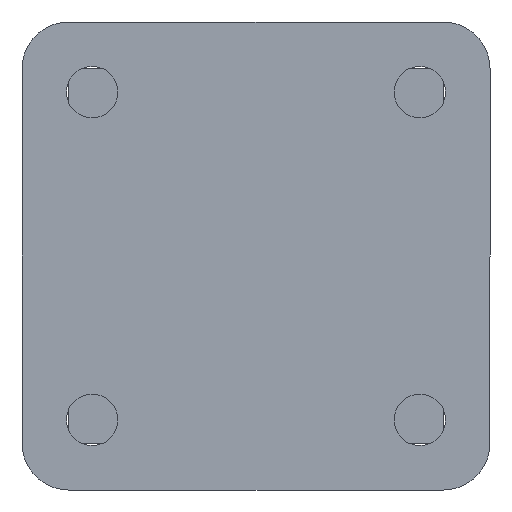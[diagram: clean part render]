
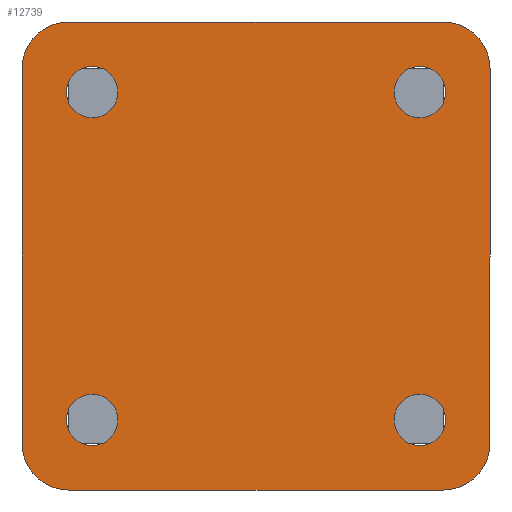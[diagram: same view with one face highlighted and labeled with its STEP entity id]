
A CAD part, front view. The second image highlights one B-rep face of the part: STEP entity #12739.
In plain terms, the highlighted planar face has unit normal (0, -1, 0).
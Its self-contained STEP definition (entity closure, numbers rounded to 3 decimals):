
#105 = EDGE_CURVE ( 'NONE', #10604, #2913, #3295, .T. ) ;
#191 = CARTESIAN_POINT ( 'NONE',  ( -50., 0., 50. ) ) ;
#304 = ORIENTED_EDGE ( 'NONE', *, *, #8594, .T. ) ;
#726 = CIRCLE ( 'NONE', #6324, 5.5 ) ;
#745 = ORIENTED_EDGE ( 'NONE', *, *, #5411, .F. ) ;
#825 = VECTOR ( 'NONE', #15408, 1000. ) ;
#870 = VERTEX_POINT ( 'NONE', #3599 ) ;
#997 = DIRECTION ( 'NONE',  ( 0., -1., 0. ) ) ;
#1043 = CIRCLE ( 'NONE', #16382, 5.5 ) ;
#1075 = DIRECTION ( 'NONE',  ( 0., 0., 1. ) ) ;
#1088 = EDGE_LOOP ( 'NONE', ( #1555, #14100, #4468, #15291, #745, #1935, #4440, #6142 ) ) ;
#1410 = DIRECTION ( 'NONE',  ( 0., 1., 0. ) ) ;
#1555 = ORIENTED_EDGE ( 'NONE', *, *, #9664, .F. ) ;
#1669 = CARTESIAN_POINT ( 'NONE',  ( -50., 0., -50. ) ) ;
#1676 = CARTESIAN_POINT ( 'NONE',  ( -50., 0., 40. ) ) ;
#1891 = CIRCLE ( 'NONE', #3085, 5.5 ) ;
#1935 = ORIENTED_EDGE ( 'NONE', *, *, #3157, .T. ) ;
#1990 = DIRECTION ( 'NONE',  ( 0., 1., 0. ) ) ;
#2046 = EDGE_LOOP ( 'NONE', ( #7841, #6560 ) ) ;
#2272 = CARTESIAN_POINT ( 'NONE',  ( -35., 0., 35. ) ) ;
#2388 = VERTEX_POINT ( 'NONE', #9661 ) ;
#2432 = AXIS2_PLACEMENT_3D ( 'NONE', #7020, #14572, #13130 ) ;
#2859 = CARTESIAN_POINT ( 'NONE',  ( 40., 0., -40. ) ) ;
#2876 = FACE_OUTER_BOUND ( 'NONE', #1088, .T. ) ;
#2913 = VERTEX_POINT ( 'NONE', #7886 ) ;
#2948 = EDGE_CURVE ( 'NONE', #9920, #10938, #14259, .T. ) ;
#3085 = AXIS2_PLACEMENT_3D ( 'NONE', #3890, #5002, #5110 ) ;
#3087 = VERTEX_POINT ( 'NONE', #14641 ) ;
#3144 = CARTESIAN_POINT ( 'NONE',  ( -35., 0., -35. ) ) ;
#3157 = EDGE_CURVE ( 'NONE', #3631, #3087, #15236, .T. ) ;
#3295 = CIRCLE ( 'NONE', #2432, 5.5 ) ;
#3316 = AXIS2_PLACEMENT_3D ( 'NONE', #5135, #3868, #13972 ) ;
#3557 = EDGE_CURVE ( 'NONE', #4820, #15381, #15926, .T. ) ;
#3585 = DIRECTION ( 'NONE',  ( 0., 0., -1. ) ) ;
#3599 = CARTESIAN_POINT ( 'NONE',  ( -50., 0., -40. ) ) ;
#3631 = VERTEX_POINT ( 'NONE', #11846 ) ;
#3787 = CIRCLE ( 'NONE', #13510, 5.5 ) ;
#3799 = ORIENTED_EDGE ( 'NONE', *, *, #2948, .T. ) ;
#3860 = AXIS2_PLACEMENT_3D ( 'NONE', #2859, #10379, #12899 ) ;
#3868 = DIRECTION ( 'NONE',  ( 0., 1., 0. ) ) ;
#3890 = CARTESIAN_POINT ( 'NONE',  ( 35., 0., -35. ) ) ;
#3939 = AXIS2_PLACEMENT_3D ( 'NONE', #10516, #16246, #1075 ) ;
#4243 = EDGE_CURVE ( 'NONE', #4820, #3087, #11965, .T. ) ;
#4313 = ORIENTED_EDGE ( 'NONE', *, *, #12940, .T. ) ;
#4420 = CARTESIAN_POINT ( 'NONE',  ( 35., 0., -40.5 ) ) ;
#4428 = DIRECTION ( 'NONE',  ( 0., 0., 1. ) ) ;
#4440 = ORIENTED_EDGE ( 'NONE', *, *, #4243, .F. ) ;
#4468 = ORIENTED_EDGE ( 'NONE', *, *, #15791, .F. ) ;
#4550 = EDGE_CURVE ( 'NONE', #9291, #11427, #1043, .T. ) ;
#4681 = EDGE_LOOP ( 'NONE', ( #9231, #4313 ) ) ;
#4785 = AXIS2_PLACEMENT_3D ( 'NONE', #4803, #997, #7355 ) ;
#4803 = CARTESIAN_POINT ( 'NONE',  ( 40., 0., 40. ) ) ;
#4820 = VERTEX_POINT ( 'NONE', #16355 ) ;
#5002 = DIRECTION ( 'NONE',  ( 0., 1., 0. ) ) ;
#5110 = DIRECTION ( 'NONE',  ( 0., 0., 1. ) ) ;
#5135 = CARTESIAN_POINT ( 'NONE',  ( 35., 0., 35. ) ) ;
#5188 = VERTEX_POINT ( 'NONE', #6893 ) ;
#5261 = EDGE_CURVE ( 'NONE', #5188, #2388, #3787, .T. ) ;
#5330 = AXIS2_PLACEMENT_3D ( 'NONE', #6693, #9305, #14422 ) ;
#5331 = DIRECTION ( 'NONE',  ( 1., 0., 0. ) ) ;
#5411 = EDGE_CURVE ( 'NONE', #3631, #11256, #7170, .T. ) ;
#6020 = DIRECTION ( 'NONE',  ( 0., 1., 0. ) ) ;
#6142 = ORIENTED_EDGE ( 'NONE', *, *, #3557, .T. ) ;
#6324 = AXIS2_PLACEMENT_3D ( 'NONE', #3144, #1990, #4428 ) ;
#6405 = LINE ( 'NONE', #7240, #10003 ) ;
#6429 = DIRECTION ( 'NONE',  ( 0., 0., 1. ) ) ;
#6464 = EDGE_LOOP ( 'NONE', ( #3799, #304 ) ) ;
#6560 = ORIENTED_EDGE ( 'NONE', *, *, #5261, .T. ) ;
#6615 = CARTESIAN_POINT ( 'NONE',  ( -35., 0., -29.5 ) ) ;
#6693 = CARTESIAN_POINT ( 'NONE',  ( -40., 0., 40. ) ) ;
#6780 = CIRCLE ( 'NONE', #9605, 5.5 ) ;
#6893 = CARTESIAN_POINT ( 'NONE',  ( 35., 0., 29.5 ) ) ;
#7020 = CARTESIAN_POINT ( 'NONE',  ( -35., 0., -35. ) ) ;
#7168 = DIRECTION ( 'NONE',  ( 0., 0., 1. ) ) ;
#7170 = LINE ( 'NONE', #13649, #12719 ) ;
#7240 = CARTESIAN_POINT ( 'NONE',  ( -50., 0., -50. ) ) ;
#7311 = DIRECTION ( 'NONE',  ( 0., 0., 1. ) ) ;
#7355 = DIRECTION ( 'NONE',  ( 0., 0., 1. ) ) ;
#7425 = CARTESIAN_POINT ( 'NONE',  ( 35., 0., -29.5 ) ) ;
#7546 = EDGE_CURVE ( 'NONE', #2388, #5188, #15944, .T. ) ;
#7841 = ORIENTED_EDGE ( 'NONE', *, *, #7546, .T. ) ;
#7886 = CARTESIAN_POINT ( 'NONE',  ( -35., 0., -40.5 ) ) ;
#8131 = CARTESIAN_POINT ( 'NONE',  ( -35., 0., 40.5 ) ) ;
#8246 = ORIENTED_EDGE ( 'NONE', *, *, #4550, .T. ) ;
#8594 = EDGE_CURVE ( 'NONE', #10938, #9920, #6780, .T. ) ;
#8666 = VERTEX_POINT ( 'NONE', #10156 ) ;
#8680 = DIRECTION ( 'NONE',  ( 0., -1., 0. ) ) ;
#8938 = ORIENTED_EDGE ( 'NONE', *, *, #14346, .T. ) ;
#9231 = ORIENTED_EDGE ( 'NONE', *, *, #105, .T. ) ;
#9291 = VERTEX_POINT ( 'NONE', #4420 ) ;
#9305 = DIRECTION ( 'NONE',  ( 0., -1., 0. ) ) ;
#9535 = EDGE_CURVE ( 'NONE', #8666, #11256, #10564, .T. ) ;
#9605 = AXIS2_PLACEMENT_3D ( 'NONE', #2272, #6020, #7311 ) ;
#9661 = CARTESIAN_POINT ( 'NONE',  ( 35., 0., 40.5 ) ) ;
#9664 = EDGE_CURVE ( 'NONE', #870, #15381, #16287, .T. ) ;
#9759 = DIRECTION ( 'NONE',  ( 0., 1., 0. ) ) ;
#9812 = CARTESIAN_POINT ( 'NONE',  ( -40., 0., -50. ) ) ;
#9920 = VERTEX_POINT ( 'NONE', #8131 ) ;
#9993 = AXIS2_PLACEMENT_3D ( 'NONE', #12376, #8680, #7168 ) ;
#10003 = VECTOR ( 'NONE', #10970, 1000. ) ;
#10156 = CARTESIAN_POINT ( 'NONE',  ( 40., 0., -50. ) ) ;
#10379 = DIRECTION ( 'NONE',  ( 0., -1., 0. ) ) ;
#10516 = CARTESIAN_POINT ( 'NONE',  ( -35., 0., 35. ) ) ;
#10564 = CIRCLE ( 'NONE', #3860, 10. ) ;
#10604 = VERTEX_POINT ( 'NONE', #6615 ) ;
#10790 = CARTESIAN_POINT ( 'NONE',  ( -35., 0., 29.5 ) ) ;
#10874 = EDGE_LOOP ( 'NONE', ( #8938, #8246 ) ) ;
#10934 = CARTESIAN_POINT ( 'NONE',  ( 35., 0., -35. ) ) ;
#10938 = VERTEX_POINT ( 'NONE', #10790 ) ;
#10970 = DIRECTION ( 'NONE',  ( -1., 0., 0. ) ) ;
#10987 = DIRECTION ( 'NONE',  ( 0., 0., 1. ) ) ;
#11017 = AXIS2_PLACEMENT_3D ( 'NONE', #191, #1410, #6429 ) ;
#11256 = VERTEX_POINT ( 'NONE', #14651 ) ;
#11427 = VERTEX_POINT ( 'NONE', #7425 ) ;
#11846 = CARTESIAN_POINT ( 'NONE',  ( 50., 0., 40. ) ) ;
#11965 = LINE ( 'NONE', #14391, #14552 ) ;
#12376 = CARTESIAN_POINT ( 'NONE',  ( -40., 0., -40. ) ) ;
#12719 = VECTOR ( 'NONE', #3585, 1000. ) ;
#12739 = ADVANCED_FACE ( 'NONE', ( #15590, #14605, #13017, #15397, #2876 ), #12922, .F. ) ;
#12899 = DIRECTION ( 'NONE',  ( 0., 0., 1. ) ) ;
#12922 = PLANE ( 'NONE',  #11017 ) ;
#12940 = EDGE_CURVE ( 'NONE', #2913, #10604, #726, .T. ) ;
#13017 = FACE_BOUND ( 'NONE', #10874, .T. ) ;
#13130 = DIRECTION ( 'NONE',  ( 0., 0., 1. ) ) ;
#13264 = DIRECTION ( 'NONE',  ( 0., 1., 0. ) ) ;
#13437 = CARTESIAN_POINT ( 'NONE',  ( 35., 0., 35. ) ) ;
#13510 = AXIS2_PLACEMENT_3D ( 'NONE', #13437, #13264, #14656 ) ;
#13649 = CARTESIAN_POINT ( 'NONE',  ( 50., 0., -50. ) ) ;
#13972 = DIRECTION ( 'NONE',  ( 0., 0., 1. ) ) ;
#14100 = ORIENTED_EDGE ( 'NONE', *, *, #14113, .T. ) ;
#14113 = EDGE_CURVE ( 'NONE', #870, #15145, #14196, .T. ) ;
#14196 = CIRCLE ( 'NONE', #9993, 10. ) ;
#14259 = CIRCLE ( 'NONE', #3939, 5.5 ) ;
#14346 = EDGE_CURVE ( 'NONE', #11427, #9291, #1891, .T. ) ;
#14391 = CARTESIAN_POINT ( 'NONE',  ( -50., 0., 50. ) ) ;
#14422 = DIRECTION ( 'NONE',  ( 0., 0., 1. ) ) ;
#14552 = VECTOR ( 'NONE', #5331, 1000. ) ;
#14572 = DIRECTION ( 'NONE',  ( 0., 1., 0. ) ) ;
#14605 = FACE_BOUND ( 'NONE', #2046, .T. ) ;
#14641 = CARTESIAN_POINT ( 'NONE',  ( 40., 0., 50. ) ) ;
#14651 = CARTESIAN_POINT ( 'NONE',  ( 50., 0., -40. ) ) ;
#14656 = DIRECTION ( 'NONE',  ( 0., 0., 1. ) ) ;
#15145 = VERTEX_POINT ( 'NONE', #9812 ) ;
#15236 = CIRCLE ( 'NONE', #4785, 10. ) ;
#15291 = ORIENTED_EDGE ( 'NONE', *, *, #9535, .T. ) ;
#15381 = VERTEX_POINT ( 'NONE', #1676 ) ;
#15397 = FACE_BOUND ( 'NONE', #4681, .T. ) ;
#15408 = DIRECTION ( 'NONE',  ( 0., 0., 1. ) ) ;
#15590 = FACE_BOUND ( 'NONE', #6464, .T. ) ;
#15791 = EDGE_CURVE ( 'NONE', #8666, #15145, #6405, .T. ) ;
#15926 = CIRCLE ( 'NONE', #5330, 10. ) ;
#15944 = CIRCLE ( 'NONE', #3316, 5.5 ) ;
#16246 = DIRECTION ( 'NONE',  ( 0., 1., 0. ) ) ;
#16287 = LINE ( 'NONE', #1669, #825 ) ;
#16355 = CARTESIAN_POINT ( 'NONE',  ( -40., 0., 50. ) ) ;
#16382 = AXIS2_PLACEMENT_3D ( 'NONE', #10934, #9759, #10987 ) ;
